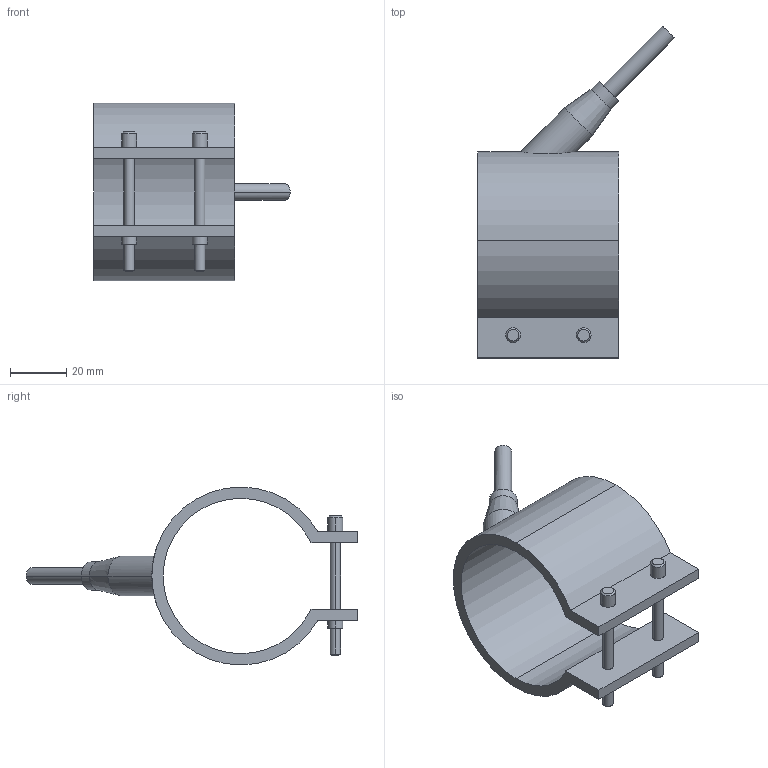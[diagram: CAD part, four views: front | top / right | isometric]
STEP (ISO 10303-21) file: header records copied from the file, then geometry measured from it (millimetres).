
FILE_DESCRIPTION(('CATIA V5 STEP Exchange'),'2;1');
FILE_NAME('C:\Users\Utente\Desktop\IO LAVORO\3D X SITO CF\X SITO\PLASTICA\RF1\29055050.stp','2021-03-29T13:14:36+00:00',('none'),('none'),'CATIA Version 5 Release 20 GA (IN-10)','CATIA V5 STEP AP203','none');
FILE_SCHEMA(('CONFIG_CONTROL_DESIGN'));
Length unit declared in the file: millimetre
Products named in the file (1): 29055050
Bounding box: 69.55 x 117.55 x 63 mm (x, y, z)
Volume: 43361.1 mm3; surface area: 23296.5 mm2
Topology: 1 solids, 1 shells, 54 faces, 124 edges, 80 vertices
Faces by surface type: cylinder 28, plane 16, cone 10
Entity records: 1705 total; most frequent: CARTESIAN_POINT 464, ORIENTED_EDGE 248, DIRECTION 215, EDGE_CURVE 124, AXIS2_PLACEMENT_3D 108, VERTEX_POINT 80, EDGE_LOOP 66, VECTOR 56
